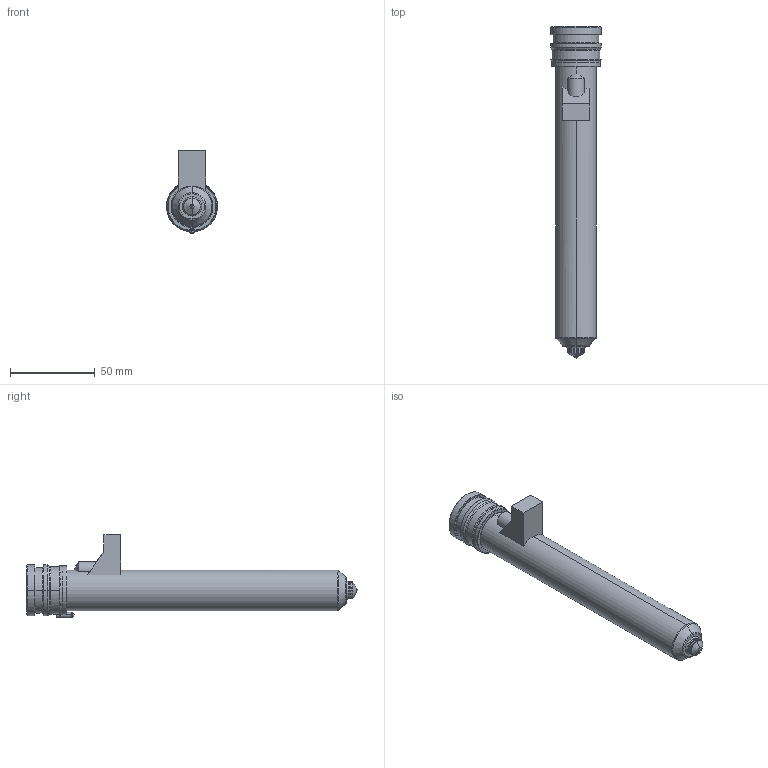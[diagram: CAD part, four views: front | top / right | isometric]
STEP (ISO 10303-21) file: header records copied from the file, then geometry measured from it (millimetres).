
FILE_DESCRIPTION((''),'2;1');
FILE_NAME('MPN-10-29-TS10-176-M','2026-02-05T12:50:06',('UPTIO'),('Thermoplay S.p.A.'),'CREO PARAMETRIC BY PTC INC, 2023494','CREO PARAMETRIC BY PTC INC, 2023494','');
FILE_SCHEMA(('CONFIG_CONTROL_DESIGN','SHAPE_APPEARANCE_LAYERS_GROUPS'));
Length unit declared in the file: millimetre
Products named in the file (1): MPN-10-29-TS10-176-M
Bounding box: 30 x 196 x 49 mm (x, y, z)
Volume: 61093.3 mm3; surface area: 62661.6 mm2
Topology: 3 solids, 5 shells, 542 faces, 1383 edges, 843 vertices
Faces by surface type: cylinder 177, plane 148, bspline 72, torus 67, cone 64, sphere 10, extrusion 4
Entity records: 29229 total; most frequent: CARTESIAN_POINT 13453, ORIENTED_EDGE 2748, DIRECTION 2578, EDGE_CURVE 1374, AXIS2_PLACEMENT_3D 1023, VERTEX_POINT 843, EDGE_LOOP 571, CIRCLE 556
